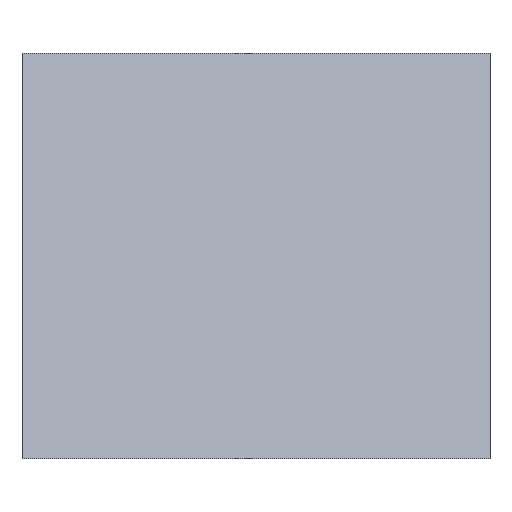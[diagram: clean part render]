
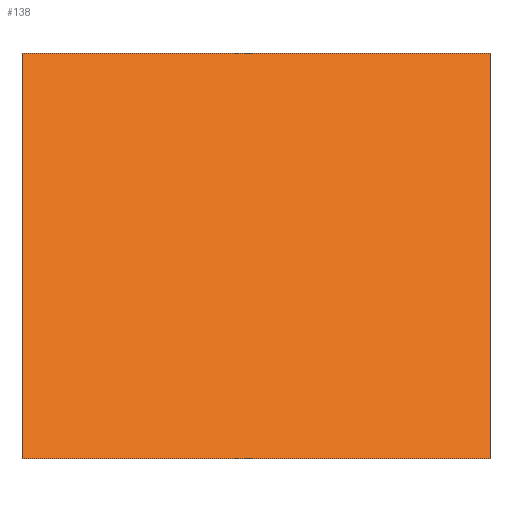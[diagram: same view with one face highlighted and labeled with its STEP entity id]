
A CAD part, left-side view. The second image highlights one B-rep face of the part: STEP entity #138.
In plain terms, the highlighted planar face has unit normal (-0.866, 0, 0.5).
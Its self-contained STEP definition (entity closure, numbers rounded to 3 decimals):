
#75=CARTESIAN_POINT('',(0.0,30.0,25.981));
#76=VERTEX_POINT('',#75);
#83=CARTESIAN_POINT('',(0.0,0.0,25.981));
#84=VERTEX_POINT('',#83);
#85=CARTESIAN_POINT('',(0.0,0.0,25.981));
#86=DIRECTION('',(0.0,1.0,0.0));
#87=VECTOR('',#86,30.0);
#88=LINE('',#85,#87);
#89=EDGE_CURVE('',#84,#76,#88,.T.);
#108=CARTESIAN_POINT('',(0.0,0.0,25.981));
#109=DIRECTION('',(-0.866,0.0,0.5));
#110=DIRECTION('',(0.5,0.0,0.866));
#111=AXIS2_PLACEMENT_3D('',#108,#109,#110);
#112=PLANE('',#111);
#113=CARTESIAN_POINT('',(-15.,30.0,0.0));
#114=VERTEX_POINT('',#113);
#115=CARTESIAN_POINT('',(0.0,30.0,25.981));
#116=DIRECTION('',(-0.5,0.0,-0.866));
#117=VECTOR('',#116,30.0);
#118=LINE('',#115,#117);
#119=EDGE_CURVE('',#76,#114,#118,.T.);
#120=ORIENTED_EDGE('',*,*,#119,.T.);
#121=CARTESIAN_POINT('',(-15.,0.0,0.0));
#122=VERTEX_POINT('',#121);
#123=CARTESIAN_POINT('',(-15.,0.0,0.0));
#124=DIRECTION('',(0.0,1.0,0.0));
#125=VECTOR('',#124,30.0);
#126=LINE('',#123,#125);
#127=EDGE_CURVE('',#122,#114,#126,.T.);
#128=ORIENTED_EDGE('',*,*,#127,.F.);
#129=CARTESIAN_POINT('',(0.0,0.0,25.981));
#130=DIRECTION('',(-0.5,0.0,-0.866));
#131=VECTOR('',#130,30.0);
#132=LINE('',#129,#131);
#133=EDGE_CURVE('',#84,#122,#132,.T.);
#134=ORIENTED_EDGE('',*,*,#133,.F.);
#135=ORIENTED_EDGE('',*,*,#89,.T.);
#136=EDGE_LOOP('',(#120,#128,#134,#135));
#137=FACE_OUTER_BOUND('',#136,.T.);
#138=ADVANCED_FACE('',(#137),#112,.T.);
